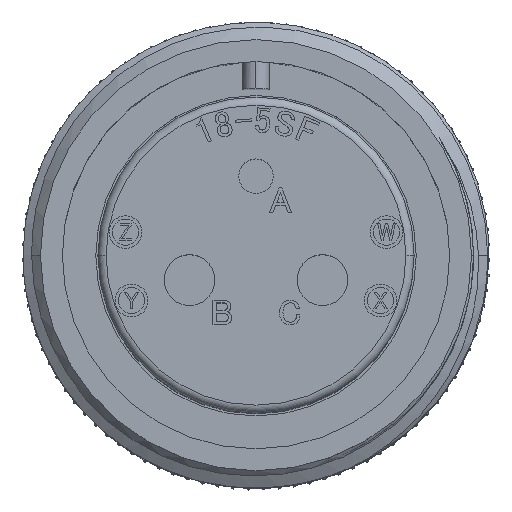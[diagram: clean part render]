
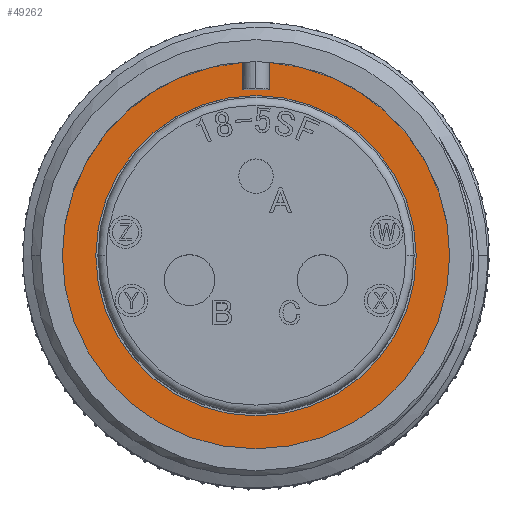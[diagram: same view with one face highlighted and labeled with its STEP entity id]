
A CAD part, top view. The second image highlights one B-rep face of the part: STEP entity #49262.
In plain terms, the highlighted planar face has unit normal (0, 0, 1).
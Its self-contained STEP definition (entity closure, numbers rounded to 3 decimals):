
#1162 = EDGE_LOOP ( 'NONE', ( #2606, #38327, #14067, #28600, #11499, #18350 ) ) ;
#1411 = DIRECTION ( 'NONE',  ( 1., 0., 0. ) ) ;
#2072 = AXIS2_PLACEMENT_3D ( 'NONE', #28227, #2726, #32456 ) ;
#2267 = EDGE_CURVE ( 'NONE', #53722, #53061, #9256, .T. ) ;
#2606 = ORIENTED_EDGE ( 'NONE', *, *, #46228, .F. ) ;
#2726 = DIRECTION ( 'NONE',  ( 0., 0., -1. ) ) ;
#3182 = VECTOR ( 'NONE', #52978, 1000. ) ;
#3787 = DIRECTION ( 'NONE',  ( 0., -1., 0. ) ) ;
#6366 = ORIENTED_EDGE ( 'NONE', *, *, #27154, .T. ) ;
#8465 = AXIS2_PLACEMENT_3D ( 'NONE', #41738, #16396, #46030 ) ;
#9256 = LINE ( 'NONE', #21822, #44426 ) ;
#9354 = VERTEX_POINT ( 'NONE', #43407 ) ;
#9907 = VECTOR ( 'NONE', #3787, 1000. ) ;
#10591 = CARTESIAN_POINT ( 'NONE',  ( 11.84, 0., -19.18 ) ) ;
#11499 = ORIENTED_EDGE ( 'NONE', *, *, #25730, .F. ) ;
#11679 = VERTEX_POINT ( 'NONE', #10591 ) ;
#12446 = FACE_BOUND ( 'NONE', #20334, .T. ) ;
#13299 = CIRCLE ( 'NONE', #26059, 11.84 ) ;
#13527 = EDGE_CURVE ( 'NONE', #27384, #53061, #14559, .T. ) ;
#14067 = ORIENTED_EDGE ( 'NONE', *, *, #13527, .T. ) ;
#14108 = CARTESIAN_POINT ( 'NONE',  ( 0., 9.795, -19.18 ) ) ;
#14496 = EDGE_CURVE ( 'NONE', #54072, #47776, #43005, .T. ) ;
#14559 = LINE ( 'NONE', #23302, #3182 ) ;
#14707 = CIRCLE ( 'NONE', #45110, 9.795 ) ;
#16396 = DIRECTION ( 'NONE',  ( 0., 0., -1. ) ) ;
#17624 = AXIS2_PLACEMENT_3D ( 'NONE', #14108, #26913, #1411 ) ;
#18127 = CIRCLE ( 'NONE', #8465, 11.84 ) ;
#18350 = ORIENTED_EDGE ( 'NONE', *, *, #43135, .F. ) ;
#18946 = CARTESIAN_POINT ( 'NONE',  ( 0., 0., -19.18 ) ) ;
#19293 = CARTESIAN_POINT ( 'NONE',  ( 0., 0., -19.18 ) ) ;
#20334 = EDGE_LOOP ( 'NONE', ( #6366, #25709 ) ) ;
#21822 = CARTESIAN_POINT ( 'NONE',  ( -0.825, 500000., -19.18 ) ) ;
#22143 = CARTESIAN_POINT ( 'NONE',  ( -0.825, 10.16, -19.18 ) ) ;
#22381 = FACE_OUTER_BOUND ( 'NONE', #1162, .T. ) ;
#22813 = CARTESIAN_POINT ( 'NONE',  ( -0.825, 11.811, -19.18 ) ) ;
#23193 = DIRECTION ( 'NONE',  ( -1., 0., 0. ) ) ;
#23302 = CARTESIAN_POINT ( 'NONE',  ( -0.825, 10.16, -19.18 ) ) ;
#23541 = DIRECTION ( 'NONE',  ( -1., 0., 0. ) ) ;
#24153 = DIRECTION ( 'NONE',  ( 0., 0., -1. ) ) ;
#25709 = ORIENTED_EDGE ( 'NONE', *, *, #14496, .T. ) ;
#25730 = EDGE_CURVE ( 'NONE', #9354, #53722, #18127, .T. ) ;
#26059 = AXIS2_PLACEMENT_3D ( 'NONE', #49572, #24153, #53807 ) ;
#26913 = DIRECTION ( 'NONE',  ( 0., 0., 1. ) ) ;
#27154 = EDGE_CURVE ( 'NONE', #47776, #54072, #14707, .T. ) ;
#27384 = VERTEX_POINT ( 'NONE', #33357 ) ;
#27438 = CIRCLE ( 'NONE', #2072, 11.84 ) ;
#28227 = CARTESIAN_POINT ( 'NONE',  ( 0., 0., -19.18 ) ) ;
#28600 = ORIENTED_EDGE ( 'NONE', *, *, #2267, .F. ) ;
#29267 = CARTESIAN_POINT ( 'NONE',  ( 0.825, 500000., -19.18 ) ) ;
#32456 = DIRECTION ( 'NONE',  ( -1., 0., 0. ) ) ;
#33357 = CARTESIAN_POINT ( 'NONE',  ( 0.825, 10.16, -19.18 ) ) ;
#38327 = ORIENTED_EDGE ( 'NONE', *, *, #46827, .T. ) ;
#38665 = DIRECTION ( 'NONE',  ( 0., -1., 0. ) ) ;
#38789 = CARTESIAN_POINT ( 'NONE',  ( 0.825, 11.811, -19.18 ) ) ;
#39232 = CARTESIAN_POINT ( 'NONE',  ( 9.795, 0., -19.18 ) ) ;
#40016 = CARTESIAN_POINT ( 'NONE',  ( -9.795, 0., -19.18 ) ) ;
#41738 = CARTESIAN_POINT ( 'NONE',  ( 0., 0., -19.18 ) ) ;
#42402 = LINE ( 'NONE', #29267, #9907 ) ;
#43005 = CIRCLE ( 'NONE', #46588, 9.795 ) ;
#43135 = EDGE_CURVE ( 'NONE', #11679, #9354, #27438, .T. ) ;
#43407 = CARTESIAN_POINT ( 'NONE',  ( -11.84, 0., -19.18 ) ) ;
#44426 = VECTOR ( 'NONE', #38665, 1000. ) ;
#45110 = AXIS2_PLACEMENT_3D ( 'NONE', #18946, #48627, #23193 ) ;
#46030 = DIRECTION ( 'NONE',  ( -1., 0., 0. ) ) ;
#46228 = EDGE_CURVE ( 'NONE', #50639, #11679, #13299, .T. ) ;
#46588 = AXIS2_PLACEMENT_3D ( 'NONE', #19293, #48971, #23541 ) ;
#46827 = EDGE_CURVE ( 'NONE', #50639, #27384, #42402, .T. ) ;
#47776 = VERTEX_POINT ( 'NONE', #40016 ) ;
#48627 = DIRECTION ( 'NONE',  ( 0., 0., -1. ) ) ;
#48971 = DIRECTION ( 'NONE',  ( 0., 0., -1. ) ) ;
#49262 = ADVANCED_FACE ( 'NONE', ( #12446, #22381 ), #52314, .T. ) ;
#49572 = CARTESIAN_POINT ( 'NONE',  ( 0., 0., -19.18 ) ) ;
#50639 = VERTEX_POINT ( 'NONE', #38789 ) ;
#52314 = PLANE ( 'NONE',  #17624 ) ;
#52978 = DIRECTION ( 'NONE',  ( -1., 0., 0. ) ) ;
#53061 = VERTEX_POINT ( 'NONE', #22143 ) ;
#53722 = VERTEX_POINT ( 'NONE', #22813 ) ;
#53807 = DIRECTION ( 'NONE',  ( -1., 0., 0. ) ) ;
#54072 = VERTEX_POINT ( 'NONE', #39232 ) ;
